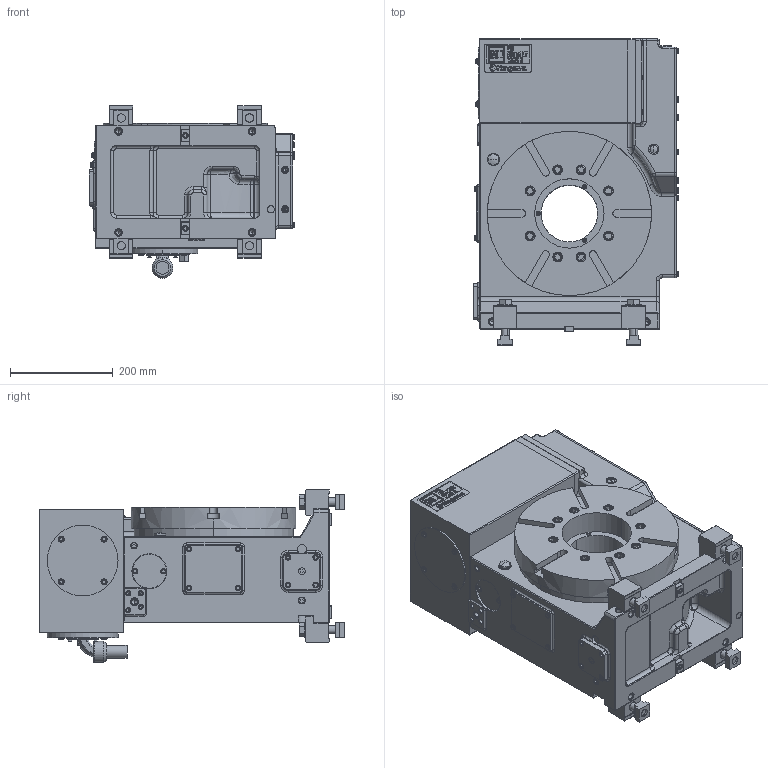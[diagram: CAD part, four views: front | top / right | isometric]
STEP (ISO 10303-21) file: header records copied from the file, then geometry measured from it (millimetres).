
FILE_DESCRIPTION (( 'STEP AP214' ), '1' );
FILE_NAME ('TUX320BV.STEP', '2019-12-12T04:55:43', ( '' ), ( '' ), 'SwSTEP 2.0', 'SolidWorks 2017', '' );
FILE_SCHEMA (( 'AUTOMOTIVE_DESIGN' ));
Length unit declared in the file: millimetre
Products named in the file (21): 儂儞僞僀ASSY(61E112698)TUX320B01; CLAMPING PARTS(61E4303000)TR320D; Tスロットナット１８１６; TUX320BV; B パーカ　M16×75; ワッシャ　１６; クランプ（61E4043064）; TUX320BV00儂儞僞僀; キタガワシール; SMC KQ2E06-02; 働乕僽儖N29ZSZ2562; コネクタプレート(61E4479762)TRX320B20; 僇僶乕丂俹(61E4458433)MR250RAM01; モータケース(61E)TUX320BV00; フランジ(61E)TUX320BV00; ガイドブロック(61M4197783); TUX320B01僋儈僞僥(61E500254); 僆僀儖僄儗儊儞僩丂俥俤亅侾俀丂僀儅僆; 僠僃僢僋僶儖僽丂CVR01-A-10W; オイルゲージ 207; テーブル(61E3674881)TRX320H00
Assembly tree (24 placements, depth 4):
  TUX320BV
    TUX320BV00儂儞僞僀
      TUX320B01僋儈僞僥(61E500254)
        儂儞僞僀ASSY(61E112698)TUX320B01
        テーブル(61E3674881)TRX320H00
        オイルゲージ 207
        僠僃僢僋僶儖僽丂CVR01-A-10W
        僆僀儖僄儗儊儞僩丂俥俤亅侾俀丂僀儅僆
      ガイドブロック(61M4197783)  x2
      フランジ(61E)TUX320BV00
      モータケース(61E)TUX320BV00
      僇僶乕丂俹(61E4458433)MR250RAM01
      コネクタプレート(61E4479762)TRX320B20
      働乕僽儖N29ZSZ2562
      SMC KQ2E06-02
      キタガワシール
    CLAMPING PARTS(61E4303000)TR320D  x4
      クランプ（61E4043064）
      ワッシャ　１６
      B パーカ　M16×75
      Tスロットナット１８１６
Bounding box: 399.9 x 596 x 336.4 mm (x, y, z)
Volume: 41241153.6 mm3; surface area: 1962890.5 mm2
Topology: 32 solids, 49 shells, 3889 faces, 9815 edges, 6284 vertices
Faces by surface type: plane 2542, cylinder 861, cone 305, torus 122, sphere 30, bspline 29
Entity records: 129517 total; most frequent: CARTESIAN_POINT 21626, DIRECTION 18574, ORIENTED_EDGE 18436, EDGE_CURVE 9218, VECTOR 6992, LINE 6992, VERTEX_POINT 5974, AXIS2_PLACEMENT_3D 5791
